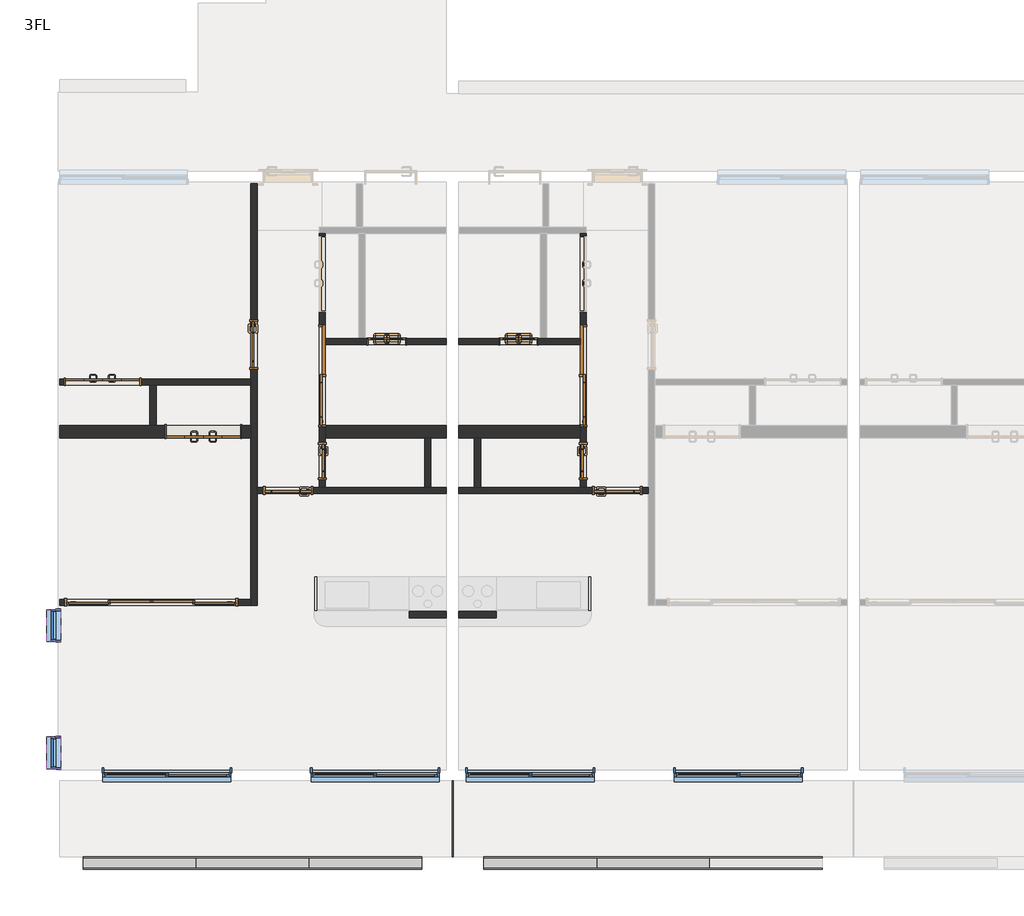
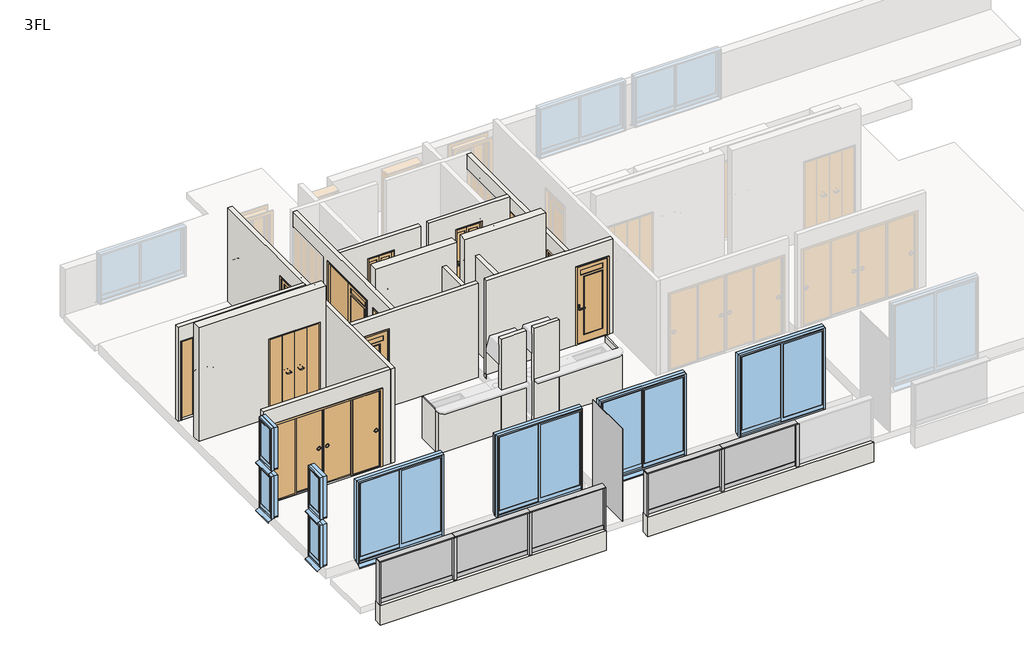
# One storey, part 1 of 3: 23 walls, 12 doors, 12 members, 8 windows, 6 plates.
"""IFC4 building model written with IfcOpenShell, lengths in millimetres."""

from ifc_helpers import new_model, si_unit, frame, origin, place, context, project, spatial, polyline, outline, extrude, faceted_brep, transform, mapped, element, save
from components import w1200h2000_98cacc9b, w1200h2000_6a144d60, w1600h2000_4c3c234a, w1600h2000_ca690e72, w2800h2000_670b855b, w600h2000_7f2747f4, w600h2000_6a266bef, w600h2000_94bb9c3c, w600h2000_8ea70a65, w800h2000_13e9f519, w800h2000_ccb03061, member_25x150_3f8205e2, member_25x150_f694351b, member_70x150_851c8a9b, plate_6aa9e5b9, plate_9f48129f, plate_365944b3, window_2000x2000_f1ff98da, window_450x1000_e0a5e2da

model = new_model("IFC4")

# Units and contexts
model_context = context("Model", 3, world=origin())
ifc_project = project(units=[si_unit("LENGTHUNIT", "METRE", prefix="MILLI")], contexts=[model_context])

# Site, building, storey
site = spatial("IfcSite", under=ifc_project)
building = spatial("IfcBuilding", under=site)
storey = spatial("IfcBuildingStorey", under=building, Name="3FL", Elevation=7000.0)

# Doors
placement = place(None, origin())
w1200h2000_shape = w1200h2000_98cacc9b(model_context)
element("IfcDoor", 1, ObjectType="木製折戸 : w1200h2000", at=placement, inside=storey, context=model_context, shape_type="MappedRepresentation", body=[
    mapped(w1200h2000_shape, transform((-8741.2187246, -9820.1171638, 7100.0), x_axis=(-1.0, 0.0, 0.0), y_axis=(0.0, -1.0, 0.0), z_axis=(0.0, 0.0, 1.0))),
])
w1200h2000_2_shape = w1200h2000_6a144d60(model_context)
element("IfcDoor", 2, ObjectType="木製折戸 : w1200h2000", at=placement, inside=storey, context=model_context, shape_type="MappedRepresentation", body=[
    mapped(w1200h2000_2_shape, transform((-10366.2187246, -9020.1171638, 7100.0), x_axis=(1.0, 0.0, 0.0), y_axis=(0.0, 1.0, 0.0), z_axis=(0.0, 0.0, 1.0))),
])
w1600h2000_shape = w1600h2000_4c3c234a(model_context)
element("IfcDoor", 3, ObjectType="片引戸CL2017 : w1600h2000", at=placement, inside=storey, context=model_context, shape_type="MappedRepresentation", body=[
    mapped(w1600h2000_shape, transform((-6828.7187246, -8920.1171638, 7100.0), x_axis=(0.0, -1.0, 0.0), y_axis=(1.0, 0.0, 0.0), z_axis=(0.0, 0.0, 1.0))),
])
w1600h2000_2_shape = w1600h2000_ca690e72(model_context)
element("IfcDoor", 4, ObjectType="片引戸CL2017 : w1600h2000", at=placement, inside=storey, context=model_context, shape_type="MappedRepresentation", body=[
    mapped(w1600h2000_2_shape, transform((-2628.7187246, -8920.1171638, 7100.0), x_axis=(0.0, -1.0, 0.0), y_axis=(1.0, 0.0, 0.0), z_axis=(0.0, 0.0, 1.0))),
])
w2800h2000_shape = w2800h2000_670b855b(model_context)
element("IfcDoor", 5, ObjectType="引違い 4 枚 2 溝_襖 : w2800h2000", at=placement, inside=storey, context=model_context, shape_type="MappedRepresentation", body=[
    mapped(w2800h2000_shape, transform((-9584.2542286, -12570.1171638, 7100.0), x_axis=(-1.0, 0.0, 0.0), y_axis=(0.0, -1.0, 0.0), z_axis=(0.0, 0.0, 1.0))),
])
w600h2000_shape = w600h2000_7f2747f4(model_context)
element("IfcDoor", 6, ObjectType="片開戸CL2058 : w600h2000", at=placement, inside=storey, context=model_context, shape_type="MappedRepresentation", body=[
    mapped(w600h2000_shape, transform((-6828.7187246, -10295.1171638, 7100.0), x_axis=(0.0, -1.0, 0.0), y_axis=(1.0, 0.0, 0.0), z_axis=(0.0, 0.0, 1.0))),
])
w600h2000_2_shape = w600h2000_6a266bef(model_context)
element("IfcDoor", 7, ObjectType="浴室折戸 : w600h2000", at=placement, inside=storey, context=model_context, shape_type="MappedRepresentation", body=[
    mapped(w600h2000_2_shape, transform((-5788.7187246, -8370.1171638, 7100.0), x_axis=(1.0, 0.0, 0.0), y_axis=(0.0, 1.0, 0.0), z_axis=(0.0, 0.0, 1.0))),
])
w600h2000_3_shape = w600h2000_94bb9c3c(model_context)
element("IfcDoor", 8, ObjectType="浴室折戸 : w600h2000", at=placement, inside=storey, context=model_context, shape_type="MappedRepresentation", body=[
    mapped(w600h2000_3_shape, transform((-3668.7187246, -8370.1171638, 7100.0), x_axis=(-1.0, 0.0, 0.0), y_axis=(0.0, -1.0, 0.0), z_axis=(0.0, 0.0, 1.0))),
])
w600h2000_4_shape = w600h2000_8ea70a65(model_context)
element("IfcDoor", 9, ObjectType="片開戸CL2058 : w600h2000", at=placement, inside=storey, context=model_context, shape_type="MappedRepresentation", body=[
    mapped(w600h2000_4_shape, transform((-2628.7187246, -10295.1171638, 7100.0), x_axis=(0.0, -1.0, 0.0), y_axis=(1.0, 0.0, 0.0), z_axis=(0.0, 0.0, 1.0))),
])
w800h2000_shape = w800h2000_13e9f519(model_context)
element("IfcDoor", 10, ObjectType="片開戸CL2058 : w800h2000", at=placement, inside=storey, context=model_context, shape_type="MappedRepresentation", body=[
    mapped(w800h2000_shape, transform((-7928.7187246, -8420.1171638, 7100.0), x_axis=(0.0, -1.0, 0.0), y_axis=(1.0, 0.0, 0.0), z_axis=(0.0, 0.0, 1.0))),
])
element("IfcDoor", 11, ObjectType="片開戸CL2058 : w800h2000", at=placement, inside=storey, context=model_context, shape_type="MappedRepresentation", body=[
    mapped(w800h2000_shape, transform((-2078.7187246, -10770.1171638, 7100.0), x_axis=(1.0, 0.0, 0.0), y_axis=(0.0, 1.0, 0.0), z_axis=(0.0, 0.0, 1.0))),
])
w800h2000_2_shape = w800h2000_ccb03061(model_context)
element("IfcDoor", 12, ObjectType="片開戸CL2058 : w800h2000", at=placement, inside=storey, context=model_context, shape_type="MappedRepresentation", body=[
    mapped(w800h2000_2_shape, transform((-7378.7187246, -10770.1171638, 7100.0), x_axis=(-1.0, 0.0, 0.0), y_axis=(0.0, -1.0, 0.0), z_axis=(0.0, 0.0, 1.0))),
])

# Members
member_25x150_shape = member_25x150_3f8205e2(model_context)
element("IfcMember", 13, ObjectType="長方形のマリオン : 25x150", at=placement, inside=storey, context=model_context, shape_type="MappedRepresentation", body=[
    mapped(member_25x150_shape, transform((-5228.7187246, -16770.1171638, 7000.0), x_axis=(1.0, 0.0, 0.0), y_axis=(0.0, -1.0, 0.0), z_axis=(0.0, 0.0, -1.0))),
])
element("IfcMember", 14, ObjectType="長方形のマリオン : 25x150", at=placement, inside=storey, context=model_context, shape_type="MappedRepresentation", body=[
    mapped(member_25x150_shape, transform((-10678.7187246, -16770.1171638, 8075.0), x_axis=(-1.0, 0.0, 0.0), y_axis=(0.0, -1.0, 0.0), z_axis=(0.0, 0.0, 1.0))),
])
element("IfcMember", 15, ObjectType="長方形のマリオン : 25x150", at=placement, inside=storey, context=model_context, shape_type="MappedRepresentation", body=[
    mapped(member_25x150_shape, transform((-4228.7187246, -16770.1171638, 8075.0), x_axis=(-1.0, 0.0, 0.0), y_axis=(0.0, -1.0, 0.0), z_axis=(0.0, 0.0, 1.0))),
])
member_25x150_2_shape = member_25x150_f694351b(model_context)
element("IfcMember", 16, ObjectType="長方形のマリオン : 25x150", at=placement, inside=storey, context=model_context, shape_type="MappedRepresentation", body=[
    mapped(member_25x150_2_shape, transform((-5228.7187246, -16770.1171638, 8100.0), x_axis=(0.0, 0.0, 1.0), y_axis=(0.0, -1.0, 0.0), z_axis=(1.0, 0.0, 0.0))),
])
element("IfcMember", 17, ObjectType="長方形のマリオン : 25x150", at=placement, inside=storey, context=model_context, shape_type="MappedRepresentation", body=[
    mapped(member_25x150_2_shape, transform((-8862.052058, -16770.1171638, 8100.0), x_axis=(0.0, 0.0, 1.0), y_axis=(0.0, -1.0, 0.0), z_axis=(1.0, 0.0, 0.0))),
])
element("IfcMember", 18, ObjectType="長方形のマリオン : 25x150", at=placement, inside=storey, context=model_context, shape_type="MappedRepresentation", body=[
    mapped(member_25x150_2_shape, transform((-2412.052058, -16770.1171638, 8100.0), x_axis=(0.0, 0.0, 1.0), y_axis=(0.0, -1.0, 0.0), z_axis=(1.0, 0.0, 0.0))),
])
element("IfcMember", 19, ObjectType="長方形のマリオン : 25x150", at=placement, inside=storey, context=model_context, shape_type="MappedRepresentation", body=[
    mapped(member_25x150_2_shape, transform((-7045.3853913, -16770.1171638, 8100.0), x_axis=(0.0, 0.0, 1.0), y_axis=(0.0, -1.0, 0.0), z_axis=(1.0, 0.0, 0.0))),
])
element("IfcMember", 20, ObjectType="長方形のマリオン : 25x150", at=placement, inside=storey, context=model_context, shape_type="MappedRepresentation", body=[
    mapped(member_25x150_2_shape, transform((-595.3853913, -16770.1171638, 8100.0), x_axis=(0.0, 0.0, 1.0), y_axis=(0.0, -1.0, 0.0), z_axis=(1.0, 0.0, 0.0))),
])
member_70x150_shape = member_70x150_851c8a9b(model_context)
element("IfcMember", 21, ObjectType="長方形のマリオン : 70x150", at=placement, inside=storey, context=model_context, shape_type="MappedRepresentation", body=[
    mapped(member_70x150_shape, transform((-8862.052058, -16770.1171638, 7000.0), x_axis=(1.0, 0.0, 0.0), y_axis=(0.0, -1.0, 0.0), z_axis=(0.0, 0.0, -1.0))),
])
element("IfcMember", 22, ObjectType="長方形のマリオン : 70x150", at=placement, inside=storey, context=model_context, shape_type="MappedRepresentation", body=[
    mapped(member_70x150_shape, transform((-7045.3853913, -16770.1171638, 7000.0), x_axis=(1.0, 0.0, 0.0), y_axis=(0.0, -1.0, 0.0), z_axis=(0.0, 0.0, -1.0))),
])
element("IfcMember", 23, ObjectType="長方形のマリオン : 70x150", at=placement, inside=storey, context=model_context, shape_type="MappedRepresentation", body=[
    mapped(member_70x150_shape, transform((-2412.052058, -16770.1171638, 7000.0), x_axis=(1.0, 0.0, 0.0), y_axis=(0.0, -1.0, 0.0), z_axis=(0.0, 0.0, -1.0))),
])
element("IfcMember", 24, ObjectType="長方形のマリオン : 70x150", at=placement, inside=storey, context=model_context, shape_type="MappedRepresentation", body=[
    mapped(member_70x150_shape, transform((-595.3853913, -16770.1171638, 7000.0), x_axis=(1.0, 0.0, 0.0), y_axis=(0.0, -1.0, 0.0), z_axis=(0.0, 0.0, -1.0))),
])

# Plates
plate_shape = plate_6aa9e5b9(model_context)
element("IfcPlate", 25, ObjectType="システム パネル : 標準", at=placement, inside=storey, context=model_context, shape_type="MappedRepresentation", body=[
    mapped(plate_shape, transform((-4728.7187246, -16056.9921638, 6950.0), x_axis=(0.0, -1.0, 0.0), y_axis=(1.0, 0.0, 0.0), z_axis=(0.0, 0.0, 1.0))),
])
plate_2_shape = plate_9f48129f(model_context)
element("IfcPlate", 26, ObjectType="r パネル FIX 下框付 : 框 H100", at=placement, inside=storey, context=model_context, shape_type="MappedRepresentation", body=[
    mapped(plate_2_shape, transform((-9775.3853913, -16770.1171638, 7000.0), x_axis=(1.0, 0.0, 0.0), y_axis=(0.0, 1.0, 0.0), z_axis=(0.0, 0.0, 1.0))),
])
element("IfcPlate", 27, ObjectType="r パネル FIX 下框付 : 框 H100", at=placement, inside=storey, context=model_context, shape_type="MappedRepresentation", body=[
    mapped(plate_2_shape, transform((-6132.052058, -16770.1171638, 7000.0), x_axis=(1.0, 0.0, 0.0), y_axis=(0.0, 1.0, 0.0), z_axis=(0.0, 0.0, 1.0))),
])
element("IfcPlate", 28, ObjectType="r パネル FIX 下框付 : 框 H100", at=placement, inside=storey, context=model_context, shape_type="MappedRepresentation", body=[
    mapped(plate_2_shape, transform((-3325.3853913, -16770.1171638, 7000.0), x_axis=(1.0, 0.0, 0.0), y_axis=(0.0, 1.0, 0.0), z_axis=(0.0, 0.0, 1.0))),
])
plate_3_shape = plate_365944b3(model_context)
element("IfcPlate", 29, ObjectType="r パネル FIX 下框付 : 框 H100", at=placement, inside=storey, context=model_context, shape_type="MappedRepresentation", body=[
    mapped(plate_3_shape, transform((-7953.7187246, -16770.1171638, 7000.0), x_axis=(1.0, 0.0, 0.0), y_axis=(0.0, 1.0, 0.0), z_axis=(0.0, 0.0, 1.0))),
])
element("IfcPlate", 30, ObjectType="r パネル FIX 下框付 : 框 H100", at=placement, inside=storey, context=model_context, shape_type="MappedRepresentation", body=[
    mapped(plate_3_shape, transform((-1503.7187246, -16770.1171638, 7000.0), x_axis=(1.0, 0.0, 0.0), y_axis=(0.0, 1.0, 0.0), z_axis=(0.0, 0.0, 1.0))),
])

# Walls
element("IfcWall", 31, ObjectType="内壁(R)RC200", at=placement, inside=storey, context=model_context, shape_type="Brep", body=[
    faceted_brep([(-11052.4687246, -9920.1171638, 7000.0), (-7978.7187246, -9920.1171638, 7000.0), (-7978.7187246, -9920.1171638, 10000.0), (-11052.4687246, -9920.1171638, 10000.0), (-9361.2187246, -9920.1171638, 9120.0), (-8121.2187246, -9920.1171638, 9120.0), (-8121.2187246, -9920.1171638, 7100.0), (-9361.2187246, -9920.1171638, 7100.0), (-11052.4687246, -9720.1171638, 7000.0), (-11052.4687246, -9720.1171638, 10000.0), (-7978.7187246, -9720.1171638, 10000.0), (-7978.7187246, -9720.1171638, 7000.0), (-9503.7187246, -9720.1171638, 7000.0), (-9603.7187246, -9720.1171638, 7000.0), (-9361.2187246, -9720.1171638, 9120.0), (-9361.2187246, -9720.1171638, 7100.0), (-8121.2187246, -9720.1171638, 7100.0), (-8121.2187246, -9720.1171638, 9120.0)], [[[0, 1, 2, 3], [4, 5, 6, 7]], [[8, 9, 10, 11, 12, 13], [14, 15, 16, 17]], [[1, 0, 8, 13, 12, 11]], [[3, 2, 10, 9]], [[15, 14, 4, 7]], [[16, 15, 7, 6]], [[17, 16, 6, 5]], [[14, 17, 5, 4]], [[0, 3, 9, 8]], [[2, 1, 11, 10]]]),
])
element("IfcWall", 32, ObjectType="内壁(R)RC200", at=placement, inside=storey, context=model_context, shape_type="Brep", body=[
    faceted_brep([(-6778.7187246, -9920.1171638, 7000.0), (-5178.7187246, -9920.1171638, 7000.0), (-5078.7187246, -9920.1171638, 7000.0), (-4828.7187246, -9920.1171638, 7000.0), (-4828.7187246, -9920.1171638, 10000.0), (-6778.7187246, -9920.1171638, 10000.0), (-6778.7187246, -9720.1171638, 7000.0), (-6778.7187246, -9720.1171638, 10000.0), (-4828.7187246, -9720.1171638, 10000.0), (-4828.7187246, -9720.1171638, 7000.0)], [[[0, 1, 2, 3, 4, 5]], [[6, 7, 8, 9]], [[3, 2, 1, 0, 6, 9]], [[5, 4, 8, 7]], [[0, 5, 7, 6]], [[4, 3, 9, 8]]]),
])
element("IfcWall", 33, ObjectType="内壁(R)RC200", at=placement, inside=storey, context=model_context, shape_type="Brep", body=[
    faceted_brep([(-2678.7187246, -9720.1171638, 7000.0), (-4628.7187246, -9720.1171638, 7000.0), (-4628.7187246, -9720.1171638, 10000.0), (-2678.7187246, -9720.1171638, 10000.0), (-2678.7187246, -9920.1171638, 7000.0), (-2678.7187246, -9920.1171638, 10000.0), (-4628.7187246, -9920.1171638, 10000.0), (-4628.7187246, -9920.1171638, 7000.0), (-4378.7187246, -9920.1171638, 7000.0), (-4278.7187246, -9920.1171638, 7000.0)], [[[0, 1, 2, 3]], [[4, 5, 6, 7, 8, 9]], [[1, 0, 4, 9, 8, 7]], [[3, 2, 6, 5]], [[0, 3, 5, 4]], [[2, 1, 7, 6]]]),
])
element("IfcWall", 34, ObjectType="(R)RC200", at=placement, inside=storey, context=model_context, shape_type="SweptSolid", body=[
    extrude(outline(polyline([(-5228.7187246, -16870.1171638), (-10678.7187246, -16870.1171638), (-10678.7187246, -16670.1171638), (-5228.7187246, -16670.1171638), (-5228.7187246, -16870.1171638)])), frame((0.0, 0.0, 6500.0), z_axis=(0.0, 0.0, 1.0), x_axis=(1.0, 0.0, 0.0)), (0.0, 0.0, 1.0), 500.0),
])
element("IfcWall", 35, ObjectType="(R)RC200", at=placement, inside=storey, context=model_context, shape_type="SweptSolid", body=[
    extrude(outline(polyline([(1221.2812754, -16870.1171638), (-4228.7187246, -16870.1171638), (-4228.7187246, -16670.1171638), (1221.2812754, -16670.1171638), (1221.2812754, -16870.1171638)])), frame((0.0, 0.0, 6500.0), z_axis=(0.0, 0.0, 1.0), x_axis=(1.0, 0.0, 0.0)), (0.0, 0.0, 1.0), 500.0),
])
element("IfcWall", 36, ObjectType="(F)30", at=placement, inside=storey, context=model_context, shape_type="SweptSolid", body=[
    extrude(outline(polyline([(-6951.1124404, -12720.1171638), (-6951.1124404, -12165.1171638), (-6921.1124404, -12165.1171638), (-6921.1124404, -12720.1171638), (-6951.1124404, -12720.1171638)])), frame((0.0, 0.0, 7100.0), z_axis=(0.0, 0.0, 1.0), x_axis=(1.0, 0.0, 0.0)), (0.0, 0.0, 1.0), 1060.0),
])
element("IfcWall", 37, ObjectType="(F)30", at=placement, inside=storey, context=model_context, shape_type="SweptSolid", body=[
    extrude(outline(polyline([(-2536.3250089, -12720.1171638), (-2536.3250089, -12165.1171638), (-2506.3250089, -12165.1171638), (-2506.3250089, -12720.1171638), (-2536.3250089, -12720.1171638)])), frame((0.0, 0.0, 7100.0), z_axis=(0.0, 0.0, 1.0), x_axis=(1.0, 0.0, 0.0)), (0.0, 0.0, 1.0), 1060.0),
])
element("IfcWall", 38, ObjectType="(L1)LGS100", at=placement, inside=storey, context=model_context, shape_type="Brep", body=[
    faceted_brep([(-11052.4687246, -9070.1171638, 7000.0), (-9603.7187246, -9070.1171638, 7000.0), (-9503.7187246, -9070.1171638, 7000.0), (-7978.7187246, -9070.1171638, 7000.0), (-7978.7187246, -9070.1171638, 9500.0), (-9503.7187246, -9070.1171638, 9500.0), (-9603.7187246, -9070.1171638, 9500.0), (-11052.4687246, -9070.1171638, 9500.0), (-9746.2187246, -9070.1171638, 9120.0), (-9746.2187246, -9070.1171638, 7100.0), (-10986.2187246, -9070.1171638, 7100.0), (-10986.2187246, -9070.1171638, 9120.0), (-7978.7187246, -8970.1171638, 7000.0), (-11052.4687246, -8970.1171638, 7000.0), (-11052.4687246, -8970.1171638, 9500.0), (-7978.7187246, -8970.1171638, 9500.0), (-9746.2187246, -8970.1171638, 7100.0), (-9746.2187246, -8970.1171638, 9120.0), (-10986.2187246, -8970.1171638, 9120.0), (-10986.2187246, -8970.1171638, 7100.0)], [[[0, 1, 2, 3, 4, 5, 6, 7], [8, 9, 10, 11]], [[12, 13, 14, 15], [16, 17, 18, 19]], [[3, 2, 1, 0, 13, 12]], [[7, 6, 5, 4, 15, 14]], [[4, 3, 12, 15]], [[8, 17, 16, 9]], [[9, 16, 19, 10]], [[17, 8, 11, 18]], [[18, 11, 10, 19]], [[0, 7, 14, 13]]]),
])
element("IfcWall", 39, ObjectType="(L1)LGS100", at=placement, inside=storey, context=model_context, shape_type="SweptSolid", body=[
    extrude(outline(polyline([(-9503.7187246, -9070.1171638), (-9503.7187246, -9720.1171638), (-9603.7187246, -9720.1171638), (-9603.7187246, -9070.1171638), (-9503.7187246, -9070.1171638)])), frame((0.0, 0.0, 7000.0), z_axis=(0.0, 0.0, 1.0), x_axis=(1.0, 0.0, 0.0)), (0.0, 0.0, 1.0), 2500.0),
])
element("IfcWall", 40, ObjectType="(L1)LGS100", at=placement, inside=storey, context=model_context, shape_type="Brep", body=[
    faceted_brep([(-7878.7187246, -12620.1171638, 7000.0), (-7878.7187246, -10820.1171638, 7000.0), (-7878.7187246, -10720.1171638, 7000.0), (-7878.7187246, -5826.3671638, 7000.0), (-7878.7187246, -5826.3671638, 9500.0), (-7878.7187246, -10720.1171638, 9500.0), (-7878.7187246, -10820.1171638, 9500.0), (-7878.7187246, -12620.1171638, 9500.0), (-7878.7187246, -8820.1171638, 7100.0), (-7878.7187246, -8820.1171638, 9100.0), (-7878.7187246, -8020.1171638, 9100.0), (-7878.7187246, -8020.1171638, 7100.0), (-7978.7187246, -12620.1171638, 7000.0), (-7978.7187246, -12620.1171638, 9500.0), (-7978.7187246, -12520.1171638, 9500.0), (-7978.7187246, -9070.1171638, 9500.0), (-7978.7187246, -8970.1171638, 9500.0), (-7978.7187246, -5826.3671638, 9500.0), (-7978.7187246, -5826.3671638, 7000.0), (-7978.7187246, -8970.1171638, 7000.0), (-7978.7187246, -9070.1171638, 7000.0), (-7978.7187246, -9720.1171638, 7000.0), (-7978.7187246, -9920.1171638, 7000.0), (-7978.7187246, -12520.1171638, 7000.0), (-7978.7187246, -8820.1171638, 7100.0), (-7978.7187246, -8020.1171638, 7100.0), (-7978.7187246, -8020.1171638, 9100.0), (-7978.7187246, -8820.1171638, 9100.0)], [[[0, 1, 2, 3, 4, 5, 6, 7], [8, 9, 10, 11]], [[12, 13, 14, 15, 16, 17, 18, 19, 20, 21, 22, 23], [24, 25, 26, 27]], [[3, 2, 1, 0, 12, 23, 22, 21, 20, 19, 18]], [[7, 6, 5, 4, 17, 16, 15, 14, 13]], [[0, 7, 13, 12]], [[9, 8, 24, 27]], [[10, 9, 27, 26]], [[11, 10, 26, 25]], [[8, 11, 25, 24]], [[4, 3, 18, 17]]]),
])
element("IfcWall", 41, ObjectType="(L1)LGS100", at=placement, inside=storey, context=model_context, shape_type="Brep", body=[
    faceted_brep([(-6778.7187246, -8420.1171638, 7000.0), (-4828.7187246, -8420.1171638, 7000.0), (-4828.7187246, -8420.1171638, 9500.0), (-6778.7187246, -8420.1171638, 9500.0), (-5468.7187246, -8420.1171638, 9120.0), (-5468.7187246, -8420.1171638, 7100.0), (-6108.7187246, -8420.1171638, 7100.0), (-6108.7187246, -8420.1171638, 9120.0), (-6778.7187246, -8320.1171638, 7000.0), (-6778.7187246, -8320.1171638, 9500.0), (-6238.7187246, -8320.1171638, 9500.0), (-6138.7187246, -8320.1171638, 9500.0), (-4828.7187246, -8320.1171638, 9500.0), (-4828.7187246, -8320.1171638, 7000.0), (-6138.7187246, -8320.1171638, 7000.0), (-6238.7187246, -8320.1171638, 7000.0), (-5468.7187246, -8320.1171638, 9120.0), (-6108.7187246, -8320.1171638, 9120.0), (-6108.7187246, -8320.1171638, 7100.0), (-5468.7187246, -8320.1171638, 7100.0)], [[[0, 1, 2, 3], [4, 5, 6, 7]], [[8, 9, 10, 11, 12, 13, 14, 15], [16, 17, 18, 19]], [[1, 0, 8, 15, 14, 13]], [[3, 2, 12, 11, 10, 9]], [[0, 3, 9, 8]], [[5, 4, 16, 19]], [[6, 5, 19, 18]], [[7, 6, 18, 17]], [[4, 7, 17, 16]], [[2, 1, 13, 12]]]),
])
element("IfcWall", 42, ObjectType="(L1)LGS100", at=placement, inside=storey, context=model_context, shape_type="Brep", body=[
    faceted_brep([(-6778.7187246, -10720.1171638, 7000.0), (-6778.7187246, -9920.1171638, 7000.0), (-6778.7187246, -9720.1171638, 7000.0), (-6778.7187246, -8420.1171638, 7000.0), (-6778.7187246, -8320.1171638, 7000.0), (-6778.7187246, -6630.1171638, 7000.0), (-6778.7187246, -6630.1171638, 9500.0), (-6778.7187246, -8320.1171638, 9500.0), (-6778.7187246, -8420.1171638, 9500.0), (-6778.7187246, -10720.1171638, 9500.0), (-6778.7187246, -10595.1171638, 7100.0), (-6778.7187246, -10595.1171638, 9100.0), (-6778.7187246, -9995.1171638, 9100.0), (-6778.7187246, -9995.1171638, 7100.0), (-6778.7187246, -6660.1171638, 7100.0), (-6778.7187246, -7900.1171638, 7100.0), (-6778.7187246, -7900.1171638, 9120.0), (-6778.7187246, -6660.1171638, 9120.0), (-6778.7187246, -9745.1171638, 7100.0), (-6778.7187246, -9745.1171638, 9140.0), (-6778.7187246, -8095.1171638, 9140.0), (-6778.7187246, -8095.1171638, 7100.0), (-6878.7187246, -6630.1171638, 7000.0), (-6878.7187246, -10720.1171638, 7000.0), (-6878.7187246, -10720.1171638, 9500.0), (-6878.7187246, -6630.1171638, 9500.0), (-6878.7187246, -10595.1171638, 9100.0), (-6878.7187246, -10595.1171638, 7100.0), (-6878.7187246, -9995.1171638, 7100.0), (-6878.7187246, -9995.1171638, 9100.0), (-6878.7187246, -7900.1171638, 7100.0), (-6878.7187246, -6660.1171638, 7100.0), (-6878.7187246, -6660.1171638, 9120.0), (-6878.7187246, -7900.1171638, 9120.0), (-6878.7187246, -9745.1171638, 7100.0), (-6878.7187246, -8095.1171638, 7100.0), (-6878.7187246, -8095.1171638, 9140.0), (-6878.7187246, -9745.1171638, 9140.0)], [[[0, 1, 2, 3, 4, 5, 6, 7, 8, 9], [10, 11, 12, 13], [14, 15, 16, 17], [18, 19, 20, 21]], [[22, 23, 24, 25], [26, 27, 28, 29], [30, 31, 32, 33], [34, 35, 36, 37]], [[5, 4, 3, 2, 1, 0, 23, 22]], [[9, 8, 7, 6, 25, 24]], [[0, 9, 24, 23]], [[11, 10, 27, 26]], [[12, 11, 26, 29]], [[13, 12, 29, 28]], [[10, 13, 28, 27]], [[14, 31, 30, 15]], [[15, 30, 33, 16]], [[16, 33, 32, 17]], [[19, 18, 34, 37]], [[20, 19, 37, 36]], [[21, 20, 36, 35]], [[18, 21, 35, 34]], [[31, 14, 17, 32]], [[6, 5, 22, 25]]]),
])
element("IfcWall", 43, ObjectType="(L1)LGS100", at=placement, inside=storey, context=model_context, shape_type="SweptSolid", body=[
    extrude(outline(polyline([(-5078.7187246, -9920.1171638), (-5078.7187246, -10720.1171638), (-5178.7187246, -10720.1171638), (-5178.7187246, -9920.1171638), (-5078.7187246, -9920.1171638)])), frame((0.0, 0.0, 7000.0), z_axis=(0.0, 0.0, 1.0), x_axis=(1.0, 0.0, 0.0)), (0.0, 0.0, 1.0), 2500.0),
])
element("IfcWall", 44, ObjectType="(L1)LGS100", at=placement, inside=storey, context=model_context, shape_type="Brep", body=[
    faceted_brep([(-7878.7187246, -10820.1171638, 7000.0), (-4828.7187246, -10820.1171638, 7000.0), (-4828.7187246, -10820.1171638, 9500.0), (-7878.7187246, -10820.1171638, 9500.0), (-7778.7187246, -10820.1171638, 7100.0), (-7778.7187246, -10820.1171638, 9100.0), (-6978.7187246, -10820.1171638, 9100.0), (-6978.7187246, -10820.1171638, 7100.0), (-4828.7187246, -10720.1171638, 7000.0), (-5078.7187246, -10720.1171638, 7000.0), (-5178.7187246, -10720.1171638, 7000.0), (-6778.7187246, -10720.1171638, 7000.0), (-6878.7187246, -10720.1171638, 7000.0), (-7878.7187246, -10720.1171638, 7000.0), (-7878.7187246, -10720.1171638, 9500.0), (-6878.7187246, -10720.1171638, 9500.0), (-6778.7187246, -10720.1171638, 9500.0), (-5178.7187246, -10720.1171638, 9500.0), (-5078.7187246, -10720.1171638, 9500.0), (-4828.7187246, -10720.1171638, 9500.0), (-7778.7187246, -10720.1171638, 9100.0), (-7778.7187246, -10720.1171638, 7100.0), (-6978.7187246, -10720.1171638, 7100.0), (-6978.7187246, -10720.1171638, 9100.0)], [[[0, 1, 2, 3], [4, 5, 6, 7]], [[8, 9, 10, 11, 12, 13, 14, 15, 16, 17, 18, 19], [20, 21, 22, 23]], [[1, 0, 13, 12, 11, 10, 9, 8]], [[3, 2, 19, 18, 17, 16, 15, 14]], [[0, 3, 14, 13]], [[4, 21, 20, 5]], [[5, 20, 23, 6]], [[6, 23, 22, 7]], [[21, 4, 7, 22]], [[2, 1, 8, 19]]]),
])
element("IfcWall", 45, ObjectType="(L1)LGS100", at=placement, inside=storey, context=model_context, shape_type="SweptSolid", body=[
    extrude(outline(polyline([(7000.0, -11052.4687246), (7000.0, -7978.7187246), (9500.0, -7978.7187246), (9500.0, -11052.4687246), (7000.0, -11052.4687246)]), holes=[polyline([(9100.0, -10978.7187246), (9100.0, -8178.7187246), (7100.0, -8178.7187246), (7100.0, -10978.7187246), (9100.0, -10978.7187246)])]), frame((0.0, -12620.1171638, 0.0), z_axis=(0.0, 1.0, 0.0), x_axis=(0.0, 0.0, 1.0)), (0.0, 0.0, 1.0), 100.0),
])
element("IfcWall", 46, ObjectType="(L1)LGS100", at=placement, inside=storey, context=model_context, shape_type="Brep", body=[
    faceted_brep([(-2678.7187246, -8320.1171638, 7000.0), (-3218.7187246, -8320.1171638, 7000.0), (-3318.7187246, -8320.1171638, 7000.0), (-4628.7187246, -8320.1171638, 7000.0), (-4628.7187246, -8320.1171638, 9500.0), (-3318.7187246, -8320.1171638, 9500.0), (-3218.7187246, -8320.1171638, 9500.0), (-2678.7187246, -8320.1171638, 9500.0), (-3988.7187246, -8320.1171638, 9120.0), (-3988.7187246, -8320.1171638, 7100.0), (-3348.7187246, -8320.1171638, 7100.0), (-3348.7187246, -8320.1171638, 9120.0), (-2678.7187246, -8420.1171638, 7000.0), (-2678.7187246, -8420.1171638, 9500.0), (-4628.7187246, -8420.1171638, 9500.0), (-4628.7187246, -8420.1171638, 7000.0), (-3988.7187246, -8420.1171638, 9120.0), (-3348.7187246, -8420.1171638, 9120.0), (-3348.7187246, -8420.1171638, 7100.0), (-3988.7187246, -8420.1171638, 7100.0)], [[[0, 1, 2, 3, 4, 5, 6, 7], [8, 9, 10, 11]], [[12, 13, 14, 15], [16, 17, 18, 19]], [[3, 2, 1, 0, 12, 15]], [[7, 6, 5, 4, 14, 13]], [[0, 7, 13, 12]], [[9, 8, 16, 19]], [[10, 9, 19, 18]], [[11, 10, 18, 17]], [[8, 11, 17, 16]], [[4, 3, 15, 14]]]),
])
element("IfcWall", 47, ObjectType="(L1)LGS100", at=placement, inside=storey, context=model_context, shape_type="Brep", body=[
    faceted_brep([(-2578.7187246, -10720.1171638, 7000.0), (-2578.7187246, -6630.1171638, 7000.0), (-2578.7187246, -6630.1171638, 9500.0), (-2578.7187246, -10720.1171638, 9500.0), (-2578.7187246, -10595.1171638, 7100.0), (-2578.7187246, -10595.1171638, 9100.0), (-2578.7187246, -9995.1171638, 9100.0), (-2578.7187246, -9995.1171638, 7100.0), (-2578.7187246, -6660.1171638, 7100.0), (-2578.7187246, -7900.1171638, 7100.0), (-2578.7187246, -7900.1171638, 9120.0), (-2578.7187246, -6660.1171638, 9120.0), (-2578.7187246, -9745.1171638, 7100.0), (-2578.7187246, -9745.1171638, 9140.0), (-2578.7187246, -8095.1171638, 9140.0), (-2578.7187246, -8095.1171638, 7100.0), (-2678.7187246, -6630.1171638, 7000.0), (-2678.7187246, -8320.1171638, 7000.0), (-2678.7187246, -8420.1171638, 7000.0), (-2678.7187246, -9720.1171638, 7000.0), (-2678.7187246, -9920.1171638, 7000.0), (-2678.7187246, -10720.1171638, 7000.0), (-2678.7187246, -10720.1171638, 9500.0), (-2678.7187246, -8420.1171638, 9500.0), (-2678.7187246, -8320.1171638, 9500.0), (-2678.7187246, -6630.1171638, 9500.0), (-2678.7187246, -10595.1171638, 9100.0), (-2678.7187246, -10595.1171638, 7100.0), (-2678.7187246, -9995.1171638, 7100.0), (-2678.7187246, -9995.1171638, 9100.0), (-2678.7187246, -7900.1171638, 7100.0), (-2678.7187246, -6660.1171638, 7100.0), (-2678.7187246, -6660.1171638, 9120.0), (-2678.7187246, -7900.1171638, 9120.0), (-2678.7187246, -9745.1171638, 7100.0), (-2678.7187246, -8095.1171638, 7100.0), (-2678.7187246, -8095.1171638, 9140.0), (-2678.7187246, -9745.1171638, 9140.0)], [[[0, 1, 2, 3], [4, 5, 6, 7], [8, 9, 10, 11], [12, 13, 14, 15]], [[16, 17, 18, 19, 20, 21, 22, 23, 24, 25], [26, 27, 28, 29], [30, 31, 32, 33], [34, 35, 36, 37]], [[1, 0, 21, 20, 19, 18, 17, 16]], [[3, 2, 25, 24, 23, 22]], [[0, 3, 22, 21]], [[5, 4, 27, 26]], [[6, 5, 26, 29]], [[7, 6, 29, 28]], [[4, 7, 28, 27]], [[8, 31, 30, 9]], [[9, 30, 33, 10]], [[10, 33, 32, 11]], [[13, 12, 34, 37]], [[14, 13, 37, 36]], [[15, 14, 36, 35]], [[12, 15, 35, 34]], [[31, 8, 11, 32]], [[2, 1, 16, 25]]]),
])
element("IfcWall", 48, ObjectType="(L1)LGS100", at=placement, inside=storey, context=model_context, shape_type="SweptSolid", body=[
    extrude(outline(polyline([(-4278.7187246, -9920.1171638), (-4278.7187246, -10720.1171638), (-4378.7187246, -10720.1171638), (-4378.7187246, -9920.1171638), (-4278.7187246, -9920.1171638)])), frame((0.0, 0.0, 7000.0), z_axis=(0.0, 0.0, 1.0), x_axis=(1.0, 0.0, 0.0)), (0.0, 0.0, 1.0), 2500.0),
])
element("IfcWall", 49, ObjectType="(L1)LGS100", at=placement, inside=storey, context=model_context, shape_type="Brep", body=[
    faceted_brep([(-1578.7187246, -10720.1171638, 7000.0), (-2578.7187246, -10720.1171638, 7000.0), (-2678.7187246, -10720.1171638, 7000.0), (-4278.7187246, -10720.1171638, 7000.0), (-4378.7187246, -10720.1171638, 7000.0), (-4628.7187246, -10720.1171638, 7000.0), (-4628.7187246, -10720.1171638, 9500.0), (-4378.7187246, -10720.1171638, 9500.0), (-4278.7187246, -10720.1171638, 9500.0), (-2678.7187246, -10720.1171638, 9500.0), (-2578.7187246, -10720.1171638, 9500.0), (-1578.7187246, -10720.1171638, 9500.0), (-1678.7187246, -10720.1171638, 7100.0), (-1678.7187246, -10720.1171638, 9100.0), (-2478.7187246, -10720.1171638, 9100.0), (-2478.7187246, -10720.1171638, 7100.0), (-4628.7187246, -10820.1171638, 7000.0), (-1578.7187246, -10820.1171638, 7000.0), (-1578.7187246, -10820.1171638, 9500.0), (-4628.7187246, -10820.1171638, 9500.0), (-1678.7187246, -10820.1171638, 9100.0), (-1678.7187246, -10820.1171638, 7100.0), (-2478.7187246, -10820.1171638, 7100.0), (-2478.7187246, -10820.1171638, 9100.0)], [[[0, 1, 2, 3, 4, 5, 6, 7, 8, 9, 10, 11], [12, 13, 14, 15]], [[16, 17, 18, 19], [20, 21, 22, 23]], [[5, 4, 3, 2, 1, 0, 17, 16]], [[11, 10, 9, 8, 7, 6, 19, 18]], [[0, 11, 18, 17]], [[12, 21, 20, 13]], [[13, 20, 23, 14]], [[14, 23, 22, 15]], [[21, 12, 15, 22]], [[6, 5, 16, 19]]]),
])
element("IfcWall", 50, ObjectType="(L1)LGS100", at=placement, inside=storey, context=model_context, shape_type="Brep", body=[
    faceted_brep([(-4828.7187246, -12720.1171638, 7000.0), (-5428.7187246, -12720.1171638, 7000.0), (-5428.7187246, -12720.1171638, 8160.0), (-5428.7187246, -12720.1171638, 9500.0), (-4828.7187246, -12720.1171638, 9500.0), (-4828.7187246, -12820.1171638, 7000.0), (-4828.7187246, -12820.1171638, 9500.0), (-5428.7187246, -12820.1171638, 9500.0), (-5428.7187246, -12820.1171638, 8160.0), (-5428.7187246, -12820.1171638, 7000.0)], [[[0, 1, 2, 3, 4]], [[5, 6, 7, 8, 9]], [[1, 0, 5, 9]], [[3, 2, 1, 9, 8, 7]], [[4, 3, 7, 6]], [[0, 4, 6, 5]]]),
])
element("IfcWall", 51, ObjectType="(L1)LGS100", at=placement, inside=storey, context=model_context, shape_type="Brep", body=[
    faceted_brep([(-6951.1124404, -12820.1171638, 7000.0), (-5428.7187246, -12820.1171638, 7000.0), (-5428.7187246, -12820.1171638, 8160.0), (-6951.1124404, -12820.1171638, 8160.0), (-6951.1124404, -12720.1171638, 7000.0), (-6951.1124404, -12720.1171638, 7100.0), (-6951.1124404, -12720.1171638, 8160.0), (-6921.1124404, -12720.1171638, 8160.0), (-5428.7187246, -12720.1171638, 8160.0), (-5428.7187246, -12720.1171638, 7000.0)], [[[0, 1, 2, 3]], [[4, 5, 6, 7, 8, 9]], [[1, 0, 4, 9]], [[2, 1, 9, 8]], [[3, 2, 8, 7, 6]], [[0, 3, 6, 5, 4]]]),
])
element("IfcWall", 52, ObjectType="(L1)LGS100", at=placement, inside=storey, context=model_context, shape_type="Brep", body=[
    faceted_brep([(-4628.7187246, -12820.1171638, 7000.0), (-4028.7187246, -12820.1171638, 7000.0), (-4028.7187246, -12820.1171638, 8160.0), (-4028.7187246, -12820.1171638, 9500.0), (-4628.7187246, -12820.1171638, 9500.0), (-4628.7187246, -12720.1171638, 7000.0), (-4628.7187246, -12720.1171638, 9500.0), (-4028.7187246, -12720.1171638, 9500.0), (-4028.7187246, -12720.1171638, 8160.0), (-4028.7187246, -12720.1171638, 7000.0)], [[[0, 1, 2, 3, 4]], [[5, 6, 7, 8, 9]], [[1, 0, 5, 9]], [[3, 2, 1, 9, 8, 7]], [[4, 3, 7, 6]], [[0, 4, 6, 5]]]),
])
element("IfcWall", 53, ObjectType="(L1)LGS100", at=placement, inside=storey, context=model_context, shape_type="Brep", body=[
    faceted_brep([(-2506.3250089, -12720.1171638, 7000.0), (-4028.7187246, -12720.1171638, 7000.0), (-4028.7187246, -12720.1171638, 8160.0), (-2536.3250089, -12720.1171638, 8160.0), (-2506.3250089, -12720.1171638, 8160.0), (-2506.3250089, -12720.1171638, 7100.0), (-2506.3250089, -12820.1171638, 7000.0), (-2506.3250089, -12820.1171638, 8160.0), (-4028.7187246, -12820.1171638, 8160.0), (-4028.7187246, -12820.1171638, 7000.0)], [[[0, 1, 2, 3, 4, 5]], [[6, 7, 8, 9]], [[1, 0, 6, 9]], [[2, 1, 9, 8]], [[4, 3, 2, 8, 7]], [[0, 5, 4, 7, 6]]]),
])

# Windows
window_2000x2000_shape = window_2000x2000_f1ff98da(model_context)
element("IfcWindow", 54, ObjectType="鋼製_一般枠_引違い-二枚 : 2000x2000", at=placement, inside=storey, context=model_context, shape_type="MappedRepresentation", body=[
    mapped(window_2000x2000_shape, transform((-9328.7187246, -15343.8671638, 6200.0), x_axis=(-1.0, 0.0, 0.0), y_axis=(0.0, -1.0, 0.0), z_axis=(0.0, 0.0, 1.0))),
])
element("IfcWindow", 55, ObjectType="鋼製_一般枠_引違い-二枚 : 2000x2000", at=placement, inside=storey, context=model_context, shape_type="MappedRepresentation", body=[
    mapped(window_2000x2000_shape, transform((-5978.7187246, -15343.8671638, 6200.0), x_axis=(-1.0, 0.0, 0.0), y_axis=(0.0, -1.0, 0.0), z_axis=(0.0, 0.0, 1.0))),
])
element("IfcWindow", 56, ObjectType="鋼製_一般枠_引違い-二枚 : 2000x2000", at=placement, inside=storey, context=model_context, shape_type="MappedRepresentation", body=[
    mapped(window_2000x2000_shape, transform((-128.7187246, -15343.8671638, 6200.0), x_axis=(-1.0, 0.0, 0.0), y_axis=(0.0, -1.0, 0.0), z_axis=(0.0, 0.0, 1.0))),
])
element("IfcWindow", 57, ObjectType="鋼製_一般枠_引違い-二枚 : 2000x2000", at=placement, inside=storey, context=model_context, shape_type="MappedRepresentation", body=[
    mapped(window_2000x2000_shape, transform((-3478.7187246, -15343.8671638, 6200.0), x_axis=(-1.0, 0.0, 0.0), y_axis=(0.0, -1.0, 0.0), z_axis=(0.0, 0.0, 1.0))),
])
window_450x1000_shape = window_450x1000_e0a5e2da(model_context)
element("IfcWindow", 58, ObjectType="鋼製_一般枠_嵌殺し : 450x1000", at=placement, inside=storey, context=model_context, shape_type="MappedRepresentation", body=[
    mapped(window_450x1000_shape, transform((-11152.4687246, -14995.1171638, 6010.0), x_axis=(0.0, 1.0, 0.0), y_axis=(-1.0, 0.0, 0.0), z_axis=(0.0, 0.0, 1.0))),
])
element("IfcWindow", 59, ObjectType="鋼製_一般枠_嵌殺し : 450x1000", at=placement, inside=storey, context=model_context, shape_type="MappedRepresentation", body=[
    mapped(window_450x1000_shape, transform((-11152.4687246, -12945.1171638, 6010.0), x_axis=(0.0, 1.0, 0.0), y_axis=(-1.0, 0.0, 0.0), z_axis=(0.0, 0.0, 1.0))),
])
element("IfcWindow", 60, ObjectType="鋼製_一般枠_嵌殺し : 450x1000", at=placement, inside=storey, context=model_context, shape_type="MappedRepresentation", body=[
    mapped(window_450x1000_shape, transform((-11152.4687246, -14995.1171638, 7230.0), x_axis=(0.0, 1.0, 0.0), y_axis=(-1.0, 0.0, 0.0), z_axis=(0.0, 0.0, 1.0))),
])
element("IfcWindow", 61, ObjectType="鋼製_一般枠_嵌殺し : 450x1000", at=placement, inside=storey, context=model_context, shape_type="MappedRepresentation", body=[
    mapped(window_450x1000_shape, transform((-11152.4687246, -12945.1171638, 7230.0), x_axis=(0.0, 1.0, 0.0), y_axis=(-1.0, 0.0, 0.0), z_axis=(0.0, 0.0, 1.0))),
])

save(model, "model.ifc")
